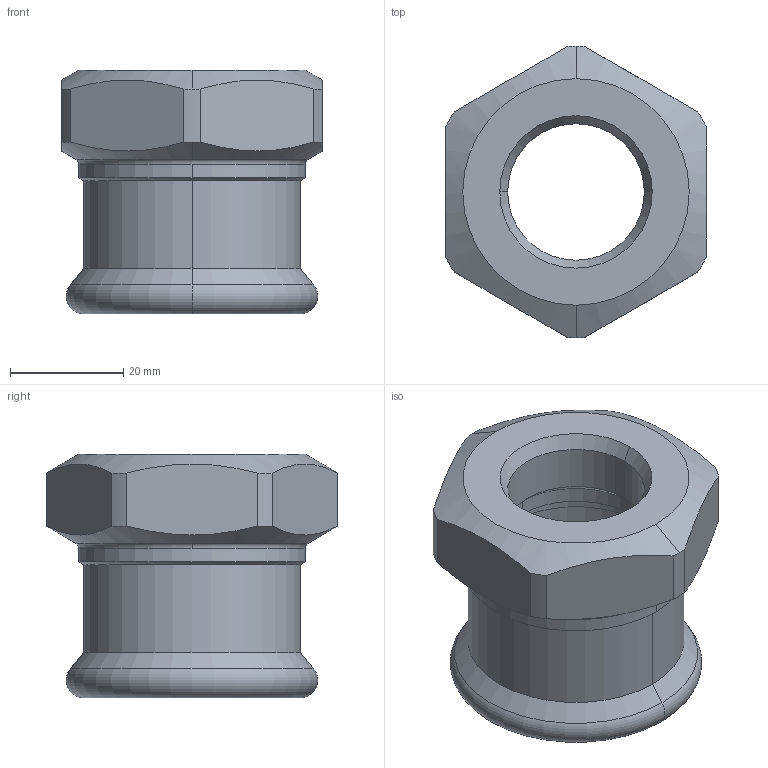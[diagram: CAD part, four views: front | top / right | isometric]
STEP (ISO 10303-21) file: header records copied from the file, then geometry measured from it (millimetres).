
FILE_DESCRIPTION(('CoCreate Modeling STEP Export'),'2;1');
FILE_NAME('C1402 35xRp3-4.stp','2014-11-13T11:05:10',(''),(''),'CoCreate Modeling STEP processor for AP214 (Solid Model)','CoCreate Modeling 17.00A 17-Jun-2010 (C) Parametric Technology GmbH','');
FILE_SCHEMA(('AUTOMOTIVE_DESIGN { 1 0 10303 214 1 1 1 1 }'));
Length unit declared in the file: millimetre
Products named in the file (2): C1402_35xRp3-4
Assembly tree (1 placements, depth 2):
  C1402_35xRp3-4
    C1402_35xRp3-4
Bounding box: 46 x 51.5 x 43 mm (x, y, z)
Volume: 26745.9 mm3; surface area: 12457.6 mm2
Topology: 1 solids, 1 shells, 51 faces, 122 edges, 74 vertices
Faces by surface type: cylinder 20, cone 18, plane 9, torus 4
Entity records: 2320 total; most frequent: CARTESIAN_POINT 1154, ORIENTED_EDGE 244, DIRECTION 220, EDGE_CURVE 122, AXIS2_PLACEMENT_3D 88, VERTEX_POINT 74, EDGE_LOOP 54, FACE_OUTER_BOUND 51
